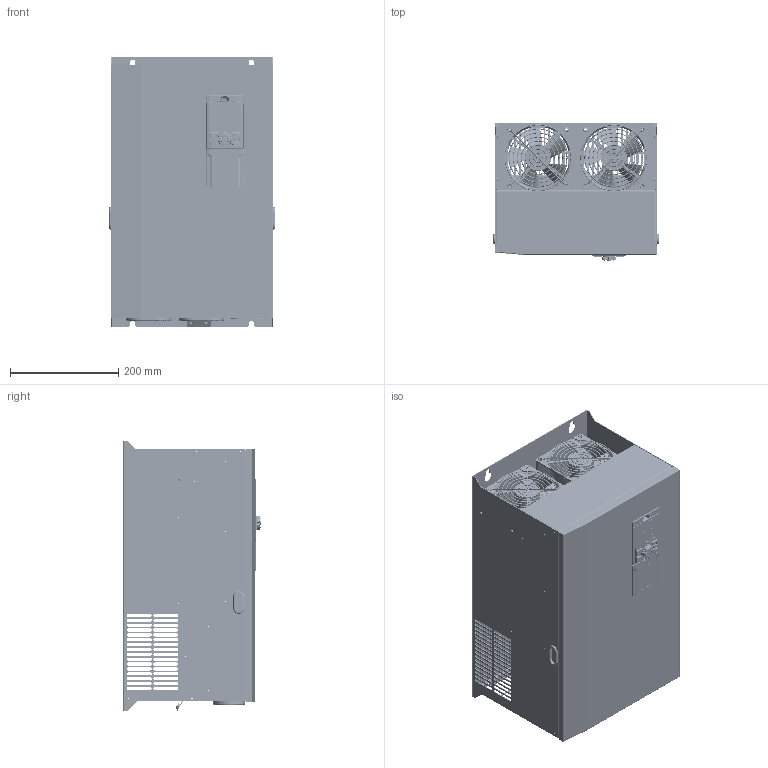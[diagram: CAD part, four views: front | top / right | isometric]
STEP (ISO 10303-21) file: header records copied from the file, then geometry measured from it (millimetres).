
FILE_DESCRIPTION((''),'2;1');
FILE_NAME('00-A8-55_ASM_115_ASM','2024-08-14T',('Administrator'),(''),'PRO/ENGINEER BY PARAMETRIC TECHNOLOGY CORPORATION, 2010280','PRO/ENGINEER BY PARAMETRIC TECHNOLOGY CORPORATION, 2010280','');
FILE_SCHEMA(('AUTOMOTIVE_DESIGN { 1 0 10303 214 1 1 1 1 }'));
Products named in the file (93): A8-55-01-01-01_44; TPS-3-10-ZC_13; A8-55-01-01-01_ASM_44_ASM; A8-55-01-01-02_29; S-M4-ZC_20; A8-55-01-01-02_ASM_29_ASM; A8-55-01-01-03_51; S-M6-ZC_20; BSO-M3-10-ZC_24; BSO-3R5M3-18-ZC_24; A8-55-01-01-03_ASM_53_ASM; A8-55-01-01-04_23; A8-55-01-01-04_ASM_29_ASM; A8-55-01-01-05_25; A8-55-01-01-05_ASM_27_ASM; A8-55-01-01-06_13; A8-55-01-01-06_ASM_15_ASM; GB12617-90_4X8_30-R0_10_10; GB12617-90_4X6-22_3_2_3; A8-55-01-01_ASM_65_ASM; A8-55-01-02_27; A8-55-01-02_ASM_30_ASM; A8-55-01-03_29; TPS-4-8-ZC_13; A8-55-01-03_ASM_31_ASM; A8-55-01-04_26; A8-55-01-04_ASM_29_ASM; A8-55-01-05_45; S-M3-ZC_20; A8-55-01-05_ASM_51_ASM; A8-37-01-05_8; A8-37-01-05_ASM_12_ASM; A8-55-01_ASM_69_ASM; 12038_8_14; MANIFOLD_SOLID_BREP_182376; MANIFOLD_SOLID_BREP_182513; MANIFOLD_SOLID_BREP_182650; MANIFOLD_SOLID_BREP_182787; MANIFOLD_SOLID_BREP_182924; MANIFOLD_SOLID_BREP_183923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
Assembly tree (209 placements, depth 6):
  00-A8-55_ASM_115_ASM
    A8-55-01_ASM_69_ASM
      A8-55-01-01_ASM_65_ASM
        A8-55-01-01-01_ASM_44_ASM
          A8-55-01-01-01_44
          TPS-3-10-ZC_13  x2
        A8-55-01-01-02_ASM_29_ASM
          A8-55-01-01-02_29
          S-M4-ZC_20  x2
        A8-55-01-01-03_ASM_53_ASM
          A8-55-01-01-03_51
          TPS-3-10-ZC_13  x2
          S-M6-ZC_20  x2
          BSO-M3-10-ZC_24  x8
          BSO-3R5M3-18-ZC_24  x4
        A8-55-01-01-04_ASM_29_ASM  x2
          A8-55-01-01-04_23
          S-M4-ZC_20
        A8-55-01-01-05_ASM_27_ASM  x2
          A8-55-01-01-05_25
          S-M4-ZC_20
        A8-55-01-01-06_ASM_15_ASM
          A8-55-01-01-06_13
        GB12617-90_4X8_30-R0_10_10  x32
        GB12617-90_4X6-22_3_2_3  x2
      A8-55-01-02_ASM_30_ASM
        A8-55-01-02_27
        S-M4-ZC_20  x12
      A8-55-01-03_ASM_31_ASM
        A8-55-01-03_29
        TPS-4-8-ZC_13  x2
      A8-55-01-04_ASM_29_ASM
        A8-55-01-04_26
        S-M4-ZC_20  x16
      A8-55-01-05_ASM_51_ASM
        A8-55-01-05_45
        S-M3-ZC_20  x8
      A8-37-01-05_ASM_12_ASM
        A8-37-01-05_8
        S-M3-ZC_20  x4
    A8-55-QJ_ASM_38_ASM
      12038_8_14  x2
      119_NET_8_14_ASM  x2
        MANIFOLD_SOLID_BREP_182376
        MANIFOLD_SOLID_BREP_182513
        MANIFOLD_SOLID_BREP_182650
        MANIFOLD_SOLID_BREP_182787
        MANIFOLD_SOLID_BREP_182924
        MANIFOLD_SOLID_BREP_183923
        MANIFOLD_SOLID_BREP_184922
        MANIFOLD_SOLID_BREP_185059
        MANIFOLD_SOLID_BREP_185196
        MANIFOLD_SOLID_BREP_185333
      HXQ-83X58_9  x2
      HXQ-65X35_8
      HXQ-20X42_8  x2
    ACTB010-B_14  x8
    A8-DZ_ASM_48_ASM
      A8-01-07_13
      A8-01-08_12
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Bounding box: 307 x 255 x 500 mm (x, y, z)
Volume: 2223156.9 mm3; surface area: 2543354.4 mm2
Topology: 207 solids, 219 shells, 27256 faces, 77080 edges, 52410 vertices
Faces by surface type: plane 23085, cylinder 2748, cone 871, torus 310, bspline 194, sphere 48
Entity records: 477650 total; most frequent: CARTESIAN_POINT 80631, ORIENTED_EDGE 63434, DIRECTION 61163, EDGE_CURVE 31744, VECTOR 26789, LINE 26789, VERTEX_POINT 20915, PRESENTATION_STYLE_ASSIGNMENT 19090
